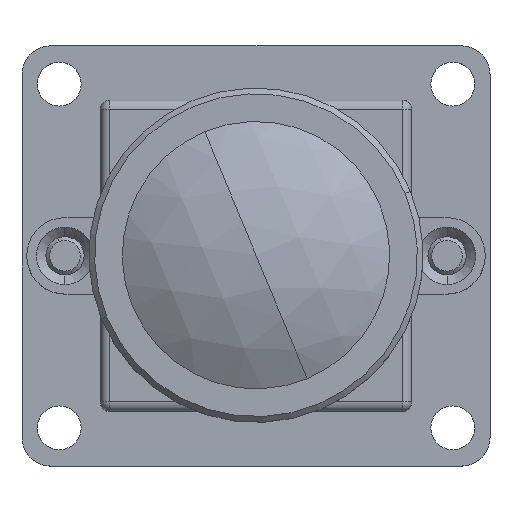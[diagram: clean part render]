
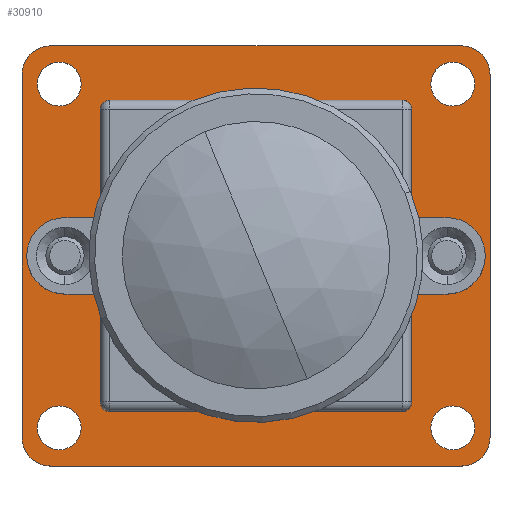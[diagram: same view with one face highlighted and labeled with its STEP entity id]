
A CAD part, top view. The second image highlights one B-rep face of the part: STEP entity #30910.
In plain terms, the highlighted planar face has unit normal (0, 0, 1).
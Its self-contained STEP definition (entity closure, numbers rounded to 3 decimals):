
#30497=CARTESIAN_POINT('',(-13.452,-7.322,
-3.996));
#30498=DIRECTION('',(0.,0.,1.));
#30499=DIRECTION('',(-1.,0.001,0.));
#30500=AXIS2_PLACEMENT_3D('',#30497,#30498,#30499);
#30502=DIRECTION('',(0.,-1.,0.));
#30503=VECTOR('',#30502,19.);
#30504=CARTESIAN_POINT('',(-14.951,11.679,
-3.996));
#30505=LINE('',#30504,#30503);
#30506=CARTESIAN_POINT('',(-13.452,11.68,
-3.996));
#30507=DIRECTION('',(0.,0.,1.));
#30508=DIRECTION('',(0.001,1.,0.));
#30509=AXIS2_PLACEMENT_3D('',#30506,#30507,#30508);
#30511=DIRECTION('',(-1.,0.,0.));
#30512=VECTOR('',#30511,21.5);
#30513=CARTESIAN_POINT('',(8.049,13.179,
-3.996));
#30514=LINE('',#30513,#30512);
#30515=CARTESIAN_POINT('',(8.05,11.68,
-3.996));
#30516=DIRECTION('',(0.,0.,1.));
#30517=DIRECTION('',(1.,-0.002,0.));
#30518=AXIS2_PLACEMENT_3D('',#30515,#30516,#30517);
#30520=DIRECTION('',(0.,1.,0.));
#30521=VECTOR('',#30520,18.998);
#30522=CARTESIAN_POINT('',(9.549,-7.321,
-3.996));
#30523=LINE('',#30522,#30521);
#30524=CARTESIAN_POINT('',(8.05,-7.322,
-3.996));
#30525=DIRECTION('',(0.,0.,1.));
#30526=DIRECTION('',(-0.001,-1.,0.));
#30527=AXIS2_PLACEMENT_3D('',#30524,#30525,#30526);
#30529=DIRECTION('',(1.,0.,0.));
#30530=VECTOR('',#30529,21.5);
#30531=CARTESIAN_POINT('',(-13.451,-8.821,
-3.996));
#30532=LINE('',#30531,#30530);
#30533=CARTESIAN_POINT('',(7.599,11.179,
-3.996));
#30534=DIRECTION('',(0.,0.,-1.));
#30535=DIRECTION('',(-1.,0.,0.));
#30536=AXIS2_PLACEMENT_3D('',#30533,#30534,#30535);
#30538=CARTESIAN_POINT('',(7.599,11.179,
-3.996));
#30539=DIRECTION('',(0.,0.,-1.));
#30540=DIRECTION('',(1.,0.,0.));
#30541=AXIS2_PLACEMENT_3D('',#30538,#30539,#30540);
#30543=CARTESIAN_POINT('',(7.299,2.179,
-3.996));
#30544=DIRECTION('',(0.,0.,1.));
#30545=DIRECTION('',(1.,0.,0.));
#30546=AXIS2_PLACEMENT_3D('',#30543,#30544,#30545);
#30548=CARTESIAN_POINT('',(7.299,2.179,
-3.996));
#30549=DIRECTION('',(0.,0.,1.));
#30550=DIRECTION('',(-1.,0.,0.));
#30551=AXIS2_PLACEMENT_3D('',#30548,#30549,#30550);
#30553=CARTESIAN_POINT('',(7.599,-6.821,
-3.996));
#30554=DIRECTION('',(0.,0.,-1.));
#30555=DIRECTION('',(-1.,0.,0.));
#30556=AXIS2_PLACEMENT_3D('',#30553,#30554,#30555);
#30558=CARTESIAN_POINT('',(7.599,-6.821,
-3.996));
#30559=DIRECTION('',(0.,0.,-1.));
#30560=DIRECTION('',(1.,0.,0.));
#30561=AXIS2_PLACEMENT_3D('',#30558,#30559,#30560);
#30563=CARTESIAN_POINT('',(-12.701,2.179,
-3.996));
#30564=DIRECTION('',(0.,0.,1.));
#30565=DIRECTION('',(1.,0.,0.));
#30566=AXIS2_PLACEMENT_3D('',#30563,#30564,#30565);
#30568=CARTESIAN_POINT('',(-12.701,2.179,
-3.996));
#30569=DIRECTION('',(0.,0.,1.));
#30570=DIRECTION('',(-1.,0.,0.));
#30571=AXIS2_PLACEMENT_3D('',#30568,#30569,#30570);
#30573=CARTESIAN_POINT('',(-13.001,11.179,
-3.996));
#30574=DIRECTION('',(0.,0.,-1.));
#30575=DIRECTION('',(-1.,0.,0.));
#30576=AXIS2_PLACEMENT_3D('',#30573,#30574,#30575);
#30578=CARTESIAN_POINT('',(-13.001,11.179,
-3.996));
#30579=DIRECTION('',(0.,0.,-1.));
#30580=DIRECTION('',(1.,0.,0.));
#30581=AXIS2_PLACEMENT_3D('',#30578,#30579,#30580);
#30583=CARTESIAN_POINT('',(-13.001,-6.821,
-3.996));
#30584=DIRECTION('',(0.,0.,-1.));
#30585=DIRECTION('',(-1.,0.,0.));
#30586=AXIS2_PLACEMENT_3D('',#30583,#30584,#30585);
#30588=CARTESIAN_POINT('',(-13.001,-6.821,
-3.996));
#30589=DIRECTION('',(0.,0.,-1.));
#30590=DIRECTION('',(1.,0.,0.));
#30591=AXIS2_PLACEMENT_3D('',#30588,#30589,#30590);
#30749=CARTESIAN_POINT('',(8.749,11.179,
-3.996));
#30750=CARTESIAN_POINT('',(6.449,11.179,
-3.996));
#30751=VERTEX_POINT('',#30749);
#30752=VERTEX_POINT('',#30750);
#30765=CARTESIAN_POINT('',(6.199,2.179,
-3.996));
#30766=CARTESIAN_POINT('',(8.399,2.179,
-3.996));
#30767=VERTEX_POINT('',#30765);
#30768=VERTEX_POINT('',#30766);
#30771=CARTESIAN_POINT('',(-13.451,-8.821,
-3.996));
#30772=CARTESIAN_POINT('',(8.049,-8.821,
-3.996));
#30773=VERTEX_POINT('',#30771);
#30774=VERTEX_POINT('',#30772);
#30775=CARTESIAN_POINT('',(-11.601,2.179,
-3.996));
#30776=CARTESIAN_POINT('',(-13.801,2.179,
-3.996));
#30777=VERTEX_POINT('',#30775);
#30778=VERTEX_POINT('',#30776);
#30780=CARTESIAN_POINT('',(-14.151,11.179,
-3.996));
#30782=VERTEX_POINT('',#30780);
#30789=CARTESIAN_POINT('',(8.049,13.179,
-3.996));
#30790=CARTESIAN_POINT('',(-13.451,13.179,
-3.996));
#30791=VERTEX_POINT('',#30789);
#30792=VERTEX_POINT('',#30790);
#30793=CARTESIAN_POINT('',(-14.951,11.679,
-3.996));
#30794=VERTEX_POINT('',#30793);
#30795=CARTESIAN_POINT('',(9.549,-7.321,
-3.996));
#30796=CARTESIAN_POINT('',(9.549,11.677,
-3.996));
#30797=VERTEX_POINT('',#30795);
#30798=VERTEX_POINT('',#30796);
#30799=CARTESIAN_POINT('',(-14.151,-6.821,
-3.996));
#30800=VERTEX_POINT('',#30799);
#30807=CARTESIAN_POINT('',(-11.851,-6.821,
-3.996));
#30808=VERTEX_POINT('',#30807);
#30813=CARTESIAN_POINT('',(-11.851,11.179,
-3.996));
#30814=VERTEX_POINT('',#30813);
#30818=CARTESIAN_POINT('',(8.749,-6.821,
-3.996));
#30820=VERTEX_POINT('',#30818);
#30821=CARTESIAN_POINT('',(6.449,-6.821,
-3.996));
#30822=VERTEX_POINT('',#30821);
#30825=CARTESIAN_POINT('',(-14.951,-7.321,
-3.996));
#30826=VERTEX_POINT('',#30825);
#30852=CARTESIAN_POINT('',(-2.701,2.179,
-3.996));
#30853=DIRECTION('',(0.,0.,-1.));
#30854=DIRECTION('',(0.,-1.,0.));
#30855=AXIS2_PLACEMENT_3D('',#30852,#30853,#30854);
#30856=PLANE('',#30855);
#30858=ORIENTED_EDGE('',*,*,#30857,.F.);
#30860=ORIENTED_EDGE('',*,*,#30859,.F.);
#30862=ORIENTED_EDGE('',*,*,#30861,.F.);
#30864=ORIENTED_EDGE('',*,*,#30863,.F.);
#30866=ORIENTED_EDGE('',*,*,#30865,.F.);
#30868=ORIENTED_EDGE('',*,*,#30867,.F.);
#30870=ORIENTED_EDGE('',*,*,#30869,.F.);
#30872=ORIENTED_EDGE('',*,*,#30871,.F.);
#30873=EDGE_LOOP('',(#30858,#30860,#30862,#30864,#30866,#30868,#30870,#30872));
#30874=FACE_OUTER_BOUND('',#30873,.F.);
#30876=ORIENTED_EDGE('',*,*,#30875,.F.);
#30878=ORIENTED_EDGE('',*,*,#30877,.F.);
#30879=EDGE_LOOP('',(#30876,#30878));
#30880=FACE_BOUND('',#30879,.F.);
#30882=ORIENTED_EDGE('',*,*,#30881,.T.);
#30884=ORIENTED_EDGE('',*,*,#30883,.T.);
#30885=EDGE_LOOP('',(#30882,#30884));
#30886=FACE_BOUND('',#30885,.F.);
#30888=ORIENTED_EDGE('',*,*,#30887,.F.);
#30890=ORIENTED_EDGE('',*,*,#30889,.F.);
#30891=EDGE_LOOP('',(#30888,#30890));
#30892=FACE_BOUND('',#30891,.F.);
#30894=ORIENTED_EDGE('',*,*,#30893,.T.);
#30896=ORIENTED_EDGE('',*,*,#30895,.T.);
#30897=EDGE_LOOP('',(#30894,#30896));
#30898=FACE_BOUND('',#30897,.F.);
#30899=ORIENTED_EDGE('',*,*,#30834,.F.);
#30901=ORIENTED_EDGE('',*,*,#30900,.F.);
#30902=EDGE_LOOP('',(#30899,#30901));
#30903=FACE_BOUND('',#30902,.F.);
#30905=ORIENTED_EDGE('',*,*,#30904,.F.);
#30907=ORIENTED_EDGE('',*,*,#30906,.F.);
#30908=EDGE_LOOP('',(#30905,#30907));
#30909=FACE_BOUND('',#30908,.F.);
#30501=CIRCLE('',#30500,1.499);
#30510=CIRCLE('',#30509,1.499);
#30519=CIRCLE('',#30518,1.499);
#30528=CIRCLE('',#30527,1.499);
#30537=CIRCLE('',#30536,1.15);
#30542=CIRCLE('',#30541,1.15);
#30547=CIRCLE('',#30546,1.1);
#30552=CIRCLE('',#30551,1.1);
#30557=CIRCLE('',#30556,1.15);
#30562=CIRCLE('',#30561,1.15);
#30567=CIRCLE('',#30566,1.1);
#30572=CIRCLE('',#30571,1.1);
#30577=CIRCLE('',#30576,1.15);
#30582=CIRCLE('',#30581,1.15);
#30587=CIRCLE('',#30586,1.15);
#30592=CIRCLE('',#30591,1.15);
#30834=EDGE_CURVE('',#30782,#30814,#30577,.T.);
#30857=EDGE_CURVE('',#30826,#30773,#30501,.T.);
#30859=EDGE_CURVE('',#30794,#30826,#30505,.T.);
#30861=EDGE_CURVE('',#30792,#30794,#30510,.T.);
#30863=EDGE_CURVE('',#30791,#30792,#30514,.T.);
#30865=EDGE_CURVE('',#30798,#30791,#30519,.T.);
#30867=EDGE_CURVE('',#30797,#30798,#30523,.T.);
#30869=EDGE_CURVE('',#30774,#30797,#30528,.T.);
#30871=EDGE_CURVE('',#30773,#30774,#30532,.T.);
#30875=EDGE_CURVE('',#30752,#30751,#30537,.T.);
#30877=EDGE_CURVE('',#30751,#30752,#30542,.T.);
#30881=EDGE_CURVE('',#30768,#30767,#30547,.T.);
#30883=EDGE_CURVE('',#30767,#30768,#30552,.T.);
#30887=EDGE_CURVE('',#30822,#30820,#30557,.T.);
#30889=EDGE_CURVE('',#30820,#30822,#30562,.T.);
#30893=EDGE_CURVE('',#30777,#30778,#30567,.T.);
#30895=EDGE_CURVE('',#30778,#30777,#30572,.T.);
#30900=EDGE_CURVE('',#30814,#30782,#30582,.T.);
#30904=EDGE_CURVE('',#30800,#30808,#30587,.T.);
#30906=EDGE_CURVE('',#30808,#30800,#30592,.T.);
#30910=ADVANCED_FACE('',(#30874,#30880,#30886,#30892,#30898,#30903,#30909),
#30856,.F.);
